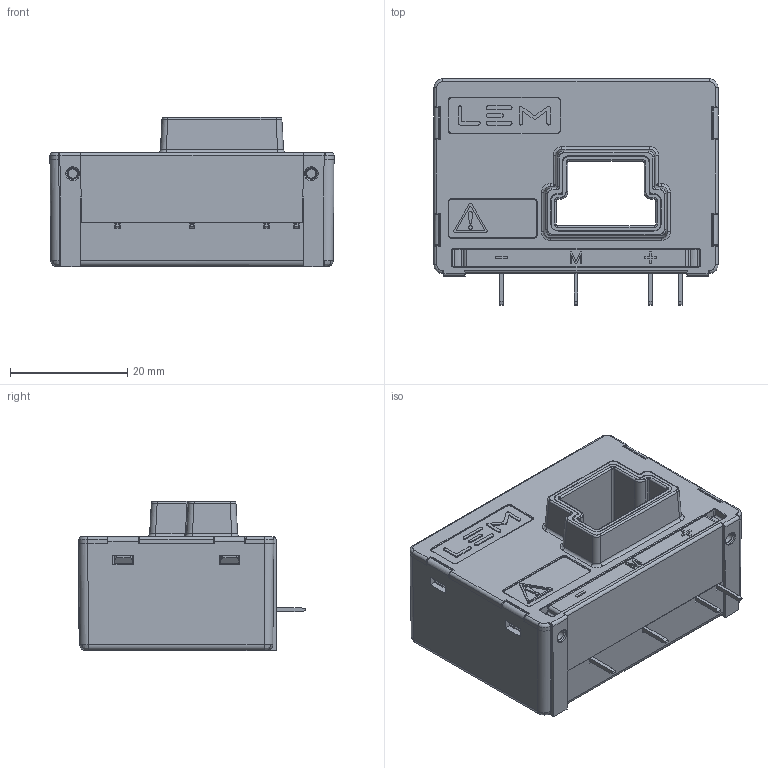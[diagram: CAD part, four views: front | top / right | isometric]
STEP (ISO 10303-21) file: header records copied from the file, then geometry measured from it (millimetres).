
FILE_DESCRIPTION(('Creo Elements/Direct Modeling STEP Export'),'2;1');
FILE_NAME('90.09.44.014.0_20221111.stp','2022-11-11T10:06:43',(''),(''),'Creo Elements/Direct Modeling STEP processor for AP214 (Solid Model)','Creo Elements/Direct Modeling 20.1 10-Mar-2018 (C) Parametric Technology GmbH','');
FILE_SCHEMA(('AUTOMOTIVE_DESIGN { 1 0 10303 214 1 1 1 1 }'));
Length unit declared in the file: millimetre
Products named in the file (2): 90.09.44.014.0_20221111
Assembly tree (1 placements, depth 2):
  90.09.44.014.0_20221111
    90.09.44.014.0_20221111
Bounding box: 48.41 x 38.65 x 25.4 mm (x, y, z)
Volume: 28244.4 mm3; surface area: 8910.2 mm2
Topology: 1 solids, 1 shells, 667 faces, 1739 edges, 1096 vertices
Faces by surface type: plane 357, cylinder 195, bspline 87, torus 24, cone 4
Entity records: 25676 total; most frequent: CARTESIAN_POINT 9970, ORIENTED_EDGE 3474, DIRECTION 2884, EDGE_CURVE 1737, VECTOR 1136, LINE 1136, VERTEX_POINT 1096, AXIS2_PLACEMENT_3D 874
